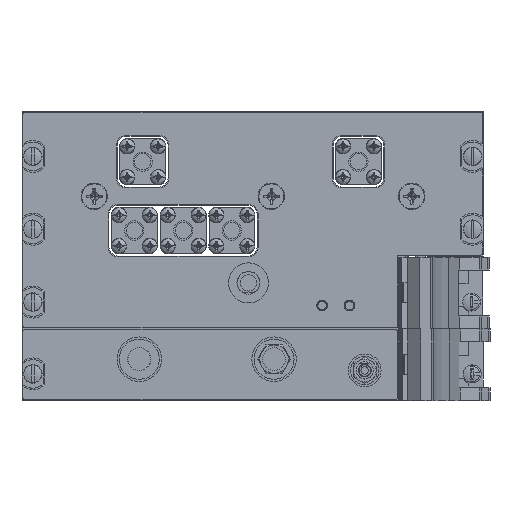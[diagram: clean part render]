
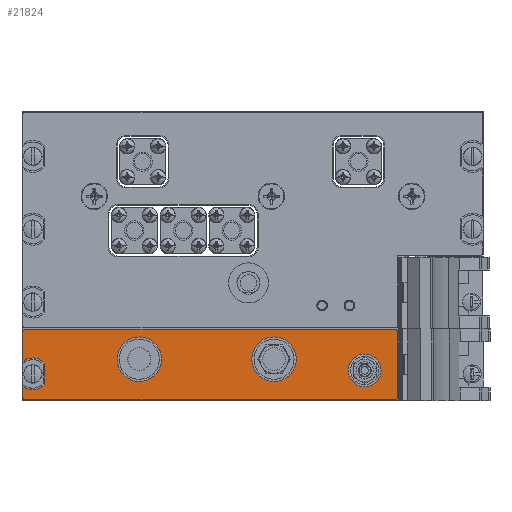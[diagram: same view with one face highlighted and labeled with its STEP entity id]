
A CAD part, left-side view. The second image highlights one B-rep face of the part: STEP entity #21824.
In plain terms, the highlighted planar face has unit normal (-1, 0, 0).
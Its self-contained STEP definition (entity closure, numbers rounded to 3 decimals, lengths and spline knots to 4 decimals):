
#5383=CARTESIAN_POINT('',(-0.2155,0.527,-0.123));
#5384=DIRECTION('',(-1.,0.,0.));
#5385=DIRECTION('',(0.,0.,1.));
#5386=AXIS2_PLACEMENT_3D('',#5383,#5384,#5385);
#5388=DIRECTION('',(0.,1.,0.));
#5389=VECTOR('',#5388,4.07);
#5390=CARTESIAN_POINT('',(-0.2155,-3.543,-0.103));
#5391=LINE('',#5390,#5389);
#5392=CARTESIAN_POINT('',(-0.2155,-3.543,-0.123));
#5393=DIRECTION('',(-1.,0.,0.));
#5394=DIRECTION('',(0.,-1.,0.));
#5395=AXIS2_PLACEMENT_3D('',#5392,#5393,#5394);
#5397=DIRECTION('',(0.,0.,1.));
#5398=VECTOR('',#5397,0.728);
#5399=CARTESIAN_POINT('',(-0.2155,-3.563,-0.851));
#5400=LINE('',#5399,#5398);
#5401=CARTESIAN_POINT('',(-0.2155,-3.543,-0.851));
#5402=DIRECTION('',(-1.,0.,0.));
#5403=DIRECTION('',(0.,0.,-1.));
#5404=AXIS2_PLACEMENT_3D('',#5401,#5402,#5403);
#5406=DIRECTION('',(0.,-1.,0.));
#5407=VECTOR('',#5406,4.07);
#5408=CARTESIAN_POINT('',(-0.2155,0.527,-0.871));
#5409=LINE('',#5408,#5407);
#5410=CARTESIAN_POINT('',(-0.2155,0.527,-0.851));
#5411=DIRECTION('',(-1.,0.,0.));
#5412=DIRECTION('',(0.,1.,0.));
#5413=AXIS2_PLACEMENT_3D('',#5410,#5411,#5412);
#5415=DIRECTION('',(0.,0.,-1.));
#5416=VECTOR('',#5415,0.1263);
#5417=CARTESIAN_POINT('',(-0.2155,0.547,-0.7247));
#5418=LINE('',#5417,#5416);
#5419=CARTESIAN_POINT('',(-0.2155,0.439,-0.587));
#5420=DIRECTION('',(1.,0.,0.));
#5421=DIRECTION('',(0.,-0.76,-0.65));
#5422=AXIS2_PLACEMENT_3D('',#5419,#5420,#5421);
#5424=DIRECTION('',(0.,0.,-1.));
#5425=VECTOR('',#5424,0.2275);
#5426=CARTESIAN_POINT('',(-0.2155,0.306,-0.4733));
#5427=LINE('',#5426,#5425);
#5428=CARTESIAN_POINT('',(-0.2155,0.439,-0.587));
#5429=DIRECTION('',(1.,0.,0.));
#5430=DIRECTION('',(0.,0.617,0.787));
#5431=AXIS2_PLACEMENT_3D('',#5428,#5429,#5430);
#5433=DIRECTION('',(0.,0.,-1.));
#5434=VECTOR('',#5433,0.3263);
#5435=CARTESIAN_POINT('',(-0.2155,0.547,-0.123));
#5436=LINE('',#5435,#5434);
#5437=CARTESIAN_POINT('',(-0.2155,-0.7298,-0.426));
#5438=DIRECTION('',(1.,0.,0.));
#5439=DIRECTION('',(0.,0.,-1.));
#5440=AXIS2_PLACEMENT_3D('',#5437,#5438,#5439);
#5442=CARTESIAN_POINT('',(-0.2155,-0.7298,-0.426));
#5443=DIRECTION('',(1.,0.,0.));
#5444=DIRECTION('',(0.,0.,1.));
#5445=AXIS2_PLACEMENT_3D('',#5442,#5443,#5444);
#5447=CARTESIAN_POINT('',(-0.2155,-2.2098,-0.426));
#5448=DIRECTION('',(1.,0.,0.));
#5449=DIRECTION('',(0.,0.,-1.));
#5450=AXIS2_PLACEMENT_3D('',#5447,#5448,#5449);
#5452=CARTESIAN_POINT('',(-0.2155,-2.2098,-0.426));
#5453=DIRECTION('',(1.,0.,0.));
#5454=DIRECTION('',(0.,0.,1.));
#5455=AXIS2_PLACEMENT_3D('',#5452,#5453,#5454);
#5457=CARTESIAN_POINT('',(-0.2155,-3.2053,-0.549));
#5458=DIRECTION('',(1.,0.,0.));
#5459=DIRECTION('',(0.,0.,-1.));
#5460=AXIS2_PLACEMENT_3D('',#5457,#5458,#5459);
#5462=CARTESIAN_POINT('',(-0.2155,-3.2053,-0.549));
#5463=DIRECTION('',(1.,0.,0.));
#5464=DIRECTION('',(0.,0.,1.));
#5465=AXIS2_PLACEMENT_3D('',#5462,#5463,#5464);
#14861=CARTESIAN_POINT('',(-0.2155,0.527,-0.103));
#14862=CARTESIAN_POINT('',(-0.2155,0.547,-0.123));
#14863=VERTEX_POINT('',#14861);
#14864=VERTEX_POINT('',#14862);
#14865=CARTESIAN_POINT('',(-0.2155,0.547,-0.4493));
#14866=VERTEX_POINT('',#14865);
#14867=CARTESIAN_POINT('',(-0.2155,0.306,-0.4733));
#14868=VERTEX_POINT('',#14867);
#14869=CARTESIAN_POINT('',(-0.2155,0.306,-0.7007));
#14870=VERTEX_POINT('',#14869);
#14871=CARTESIAN_POINT('',(-0.2155,0.547,-0.7247));
#14872=VERTEX_POINT('',#14871);
#14873=CARTESIAN_POINT('',(-0.2155,0.547,-0.851));
#14874=VERTEX_POINT('',#14873);
#14875=CARTESIAN_POINT('',(-0.2155,0.527,-0.871));
#14876=VERTEX_POINT('',#14875);
#14877=CARTESIAN_POINT('',(-0.2155,-3.543,-0.871));
#14878=VERTEX_POINT('',#14877);
#14879=CARTESIAN_POINT('',(-0.2155,-3.563,-0.851));
#14880=VERTEX_POINT('',#14879);
#14881=CARTESIAN_POINT('',(-0.2155,-3.563,-0.123));
#14882=VERTEX_POINT('',#14881);
#14883=CARTESIAN_POINT('',(-0.2155,-3.543,-0.103));
#14884=VERTEX_POINT('',#14883);
#14885=CARTESIAN_POINT('',(-0.2155,-0.7298,-0.67));
#14886=CARTESIAN_POINT('',(-0.2155,-0.7298,-0.182));
#14887=VERTEX_POINT('',#14885);
#14888=VERTEX_POINT('',#14886);
#14889=CARTESIAN_POINT('',(-0.2155,-3.2053,-0.729));
#14890=CARTESIAN_POINT('',(-0.2155,-3.2053,-0.369));
#14891=VERTEX_POINT('',#14889);
#14892=VERTEX_POINT('',#14890);
#14893=CARTESIAN_POINT('',(-0.2155,-2.2098,-0.67));
#14894=CARTESIAN_POINT('',(-0.2155,-2.2098,-0.182));
#14895=VERTEX_POINT('',#14893);
#14896=VERTEX_POINT('',#14894);
#21777=CARTESIAN_POINT('',(-0.2155,0.439,-0.587));
#21778=DIRECTION('',(-1.,0.,0.));
#21779=DIRECTION('',(0.,0.,1.));
#21780=AXIS2_PLACEMENT_3D('',#21777,#21778,#21779);
#21781=PLANE('',#21780);
#21783=ORIENTED_EDGE('',*,*,#21782,.F.);
#21785=ORIENTED_EDGE('',*,*,#21784,.F.);
#21787=ORIENTED_EDGE('',*,*,#21786,.F.);
#21789=ORIENTED_EDGE('',*,*,#21788,.F.);
#21791=ORIENTED_EDGE('',*,*,#21790,.F.);
#21793=ORIENTED_EDGE('',*,*,#21792,.F.);
#21795=ORIENTED_EDGE('',*,*,#21794,.F.);
#21797=ORIENTED_EDGE('',*,*,#21796,.F.);
#21799=ORIENTED_EDGE('',*,*,#21798,.F.);
#21801=ORIENTED_EDGE('',*,*,#21800,.F.);
#21803=ORIENTED_EDGE('',*,*,#21802,.F.);
#21805=ORIENTED_EDGE('',*,*,#21804,.F.);
#21806=EDGE_LOOP('',(#21783,#21785,#21787,#21789,#21791,#21793,#21795,#21797,
#21799,#21801,#21803,#21805));
#21807=FACE_OUTER_BOUND('',#21806,.F.);
#21808=ORIENTED_EDGE('',*,*,#21757,.F.);
#21809=ORIENTED_EDGE('',*,*,#21771,.F.);
#21810=EDGE_LOOP('',(#21808,#21809));
#21811=FACE_BOUND('',#21810,.F.);
#21813=ORIENTED_EDGE('',*,*,#21812,.F.);
#21815=ORIENTED_EDGE('',*,*,#21814,.F.);
#21816=EDGE_LOOP('',(#21813,#21815));
#21817=FACE_BOUND('',#21816,.F.);
#21819=ORIENTED_EDGE('',*,*,#21818,.F.);
#21821=ORIENTED_EDGE('',*,*,#21820,.F.);
#21822=EDGE_LOOP('',(#21819,#21821));
#21823=FACE_BOUND('',#21822,.F.);
#21824=ADVANCED_FACE('',(#21807,#21811,#21817,#21823),#21781,.T.);
#5387=CIRCLE('',#5386,0.02);
#5396=CIRCLE('',#5395,0.02);
#5405=CIRCLE('',#5404,0.02);
#5414=CIRCLE('',#5413,0.02);
#5423=CIRCLE('',#5422,0.175);
#5432=CIRCLE('',#5431,0.175);
#5441=CIRCLE('',#5440,0.244);
#5446=CIRCLE('',#5445,0.244);
#5451=CIRCLE('',#5450,0.244);
#5456=CIRCLE('',#5455,0.244);
#5461=CIRCLE('',#5460,0.18);
#5466=CIRCLE('',#5465,0.18);
#21757=EDGE_CURVE('',#14887,#14888,#5441,.T.);
#21771=EDGE_CURVE('',#14888,#14887,#5446,.T.);
#21782=EDGE_CURVE('',#14863,#14864,#5387,.T.);
#21784=EDGE_CURVE('',#14884,#14863,#5391,.T.);
#21786=EDGE_CURVE('',#14882,#14884,#5396,.T.);
#21788=EDGE_CURVE('',#14880,#14882,#5400,.T.);
#21790=EDGE_CURVE('',#14878,#14880,#5405,.T.);
#21792=EDGE_CURVE('',#14876,#14878,#5409,.T.);
#21794=EDGE_CURVE('',#14874,#14876,#5414,.T.);
#21796=EDGE_CURVE('',#14872,#14874,#5418,.T.);
#21798=EDGE_CURVE('',#14870,#14872,#5423,.T.);
#21800=EDGE_CURVE('',#14868,#14870,#5427,.T.);
#21802=EDGE_CURVE('',#14866,#14868,#5432,.T.);
#21804=EDGE_CURVE('',#14864,#14866,#5436,.T.);
#21812=EDGE_CURVE('',#14895,#14896,#5451,.T.);
#21814=EDGE_CURVE('',#14896,#14895,#5456,.T.);
#21818=EDGE_CURVE('',#14891,#14892,#5461,.T.);
#21820=EDGE_CURVE('',#14892,#14891,#5466,.T.);
